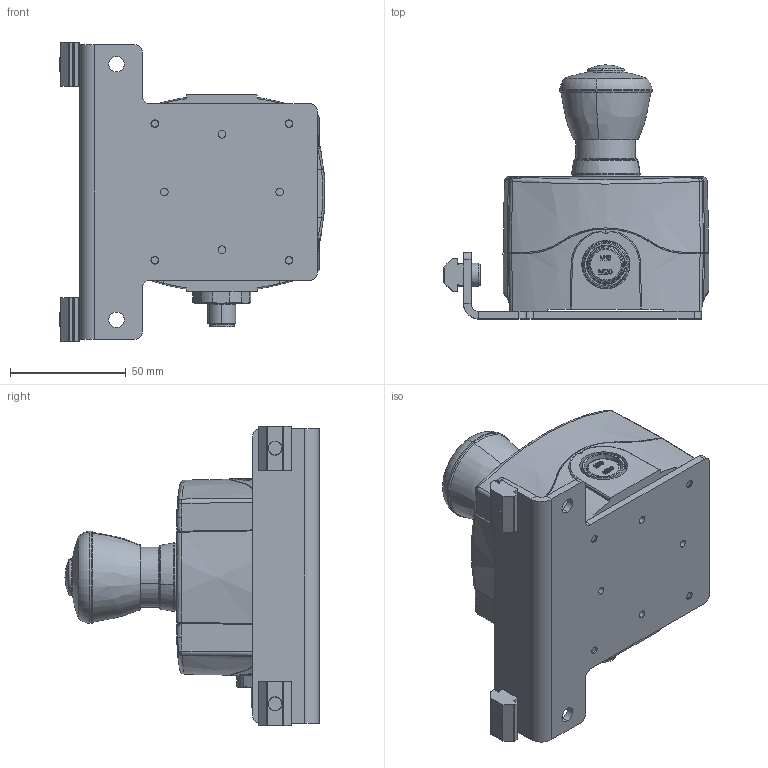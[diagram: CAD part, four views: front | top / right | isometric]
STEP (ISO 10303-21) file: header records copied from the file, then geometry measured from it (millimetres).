
FILE_DESCRIPTION((''),'2;1');
FILE_NAME('75M-ES-2_ASM','2023-02-27T',('jenni.wallner'),(''),'PRO/ENGINEER BY PARAMETRIC TECHNOLOGY CORPORATION, 2012420','PRO/ENGINEER BY PARAMETRIC TECHNOLOGY CORPORATION, 2012420','');
FILE_SCHEMA(('CONFIG_CONTROL_DESIGN'));
Length unit declared in the file: inch
Products named in the file (18): 639971M_CAE; 9204XXM_920406M; 809-314; 40359-40359-125_SIMPLIFIED-1-SO; 40359-202_SIMPLIFIED-4-SOLID1; 40359-202_SIMPLIFIED-3-SOLID1; 40359-202_SIMPLIFIED-1-SOLID1; 40359-202_SIMPLIFIED-2-SOLID1; 40359-120-02_SIMPLIFIED-1-SOLID; 817-255_ASM; 201103_CAE; 824-013_7513K241; 830-210; 830-216; 200988_721465_ASM; ASM0001_ASM; 950612M; 75M-ES-2_ASM
Assembly tree (22 placements, depth 5):
  75M-ES-2_ASM
    ASM0001_ASM
      639971M_CAE  x2
      200988_721465_ASM
        9204XXM_920406M  x4
        809-314
        817-255_ASM
          40359-40359-125_SIMPLIFIED-1-SO
          40359-202_SIMPLIFIED-4-SOLID1
          40359-202_SIMPLIFIED-3-SOLID1
          40359-202_SIMPLIFIED-1-SOLID1
          40359-202_SIMPLIFIED-2-SOLID1
          40359-120-02_SIMPLIFIED-1-SOLID
        201103_CAE
        824-013_7513K241
        830-210
        830-216
    950612M  x2
Bounding box: 114.48 x 109.57 x 129.29 mm (x, y, z)
Volume: 139545.1 mm3; surface area: 120011 mm2
Topology: 18 solids, 21 shells, 1886 faces, 5171 edges, 3387 vertices
Faces by surface type: plane 1159, cylinder 366, cone 199, bspline 96, torus 51, sphere 8, extrusion 7
Entity records: 67221 total; most frequent: CARTESIAN_POINT 22202, ORIENTED_EDGE 9786, DIRECTION 8610, EDGE_CURVE 4895, VERTEX_POINT 3227, VECTOR 3222, LINE 3215, AXIS2_PLACEMENT_3D 2694
